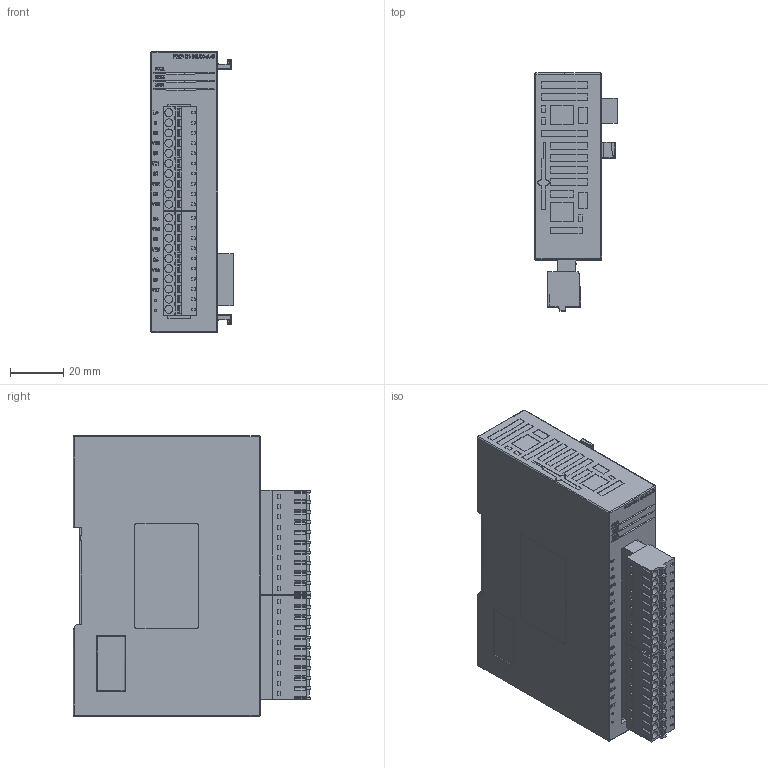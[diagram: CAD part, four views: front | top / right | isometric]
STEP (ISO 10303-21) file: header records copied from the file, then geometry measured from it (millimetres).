
FILE_DESCRIPTION(('STEP AP242'), '1');
FILE_NAME('PMP-01-E8AD-A-S', '', ('UNSPECIFIED'), ('UNSPECIFIED'), 'C3D Converter', 'C3D Toolkit', '');
FILE_SCHEMA(('AP242_MANAGED_MODEL_BASED_3D_ENGINEERING_MIM_LF { 1 0 10303 442 1 1 4 }'));
Length unit declared in the file: millimetre
Products named in the file (1): PMP-01-E8AD-A-S
Bounding box: 30.8 x 88.99 x 105 mm (x, y, z)
Volume: 195143.7 mm3; surface area: 32185.1 mm2
Topology: 10 solids, 55 shells, 1949 faces, 5301 edges, 3582 vertices
Faces by surface type: plane 1581, extrusion 134, bspline 122, cylinder 112
Full cylindrical faces by diameter (mm): 3 x20
Entity records: 90174 total; most frequent: CARTESIAN_POINT 27034, ORIENTED_EDGE 10274, DIRECTION 8099, EDGE_CURVE 5280, VECTOR 4285, LINE 4151, VERTEX_POINT 3582, EDGE_LOOP 2153
